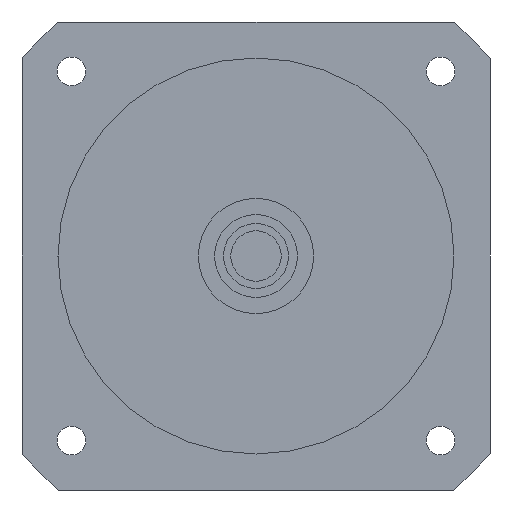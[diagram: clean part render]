
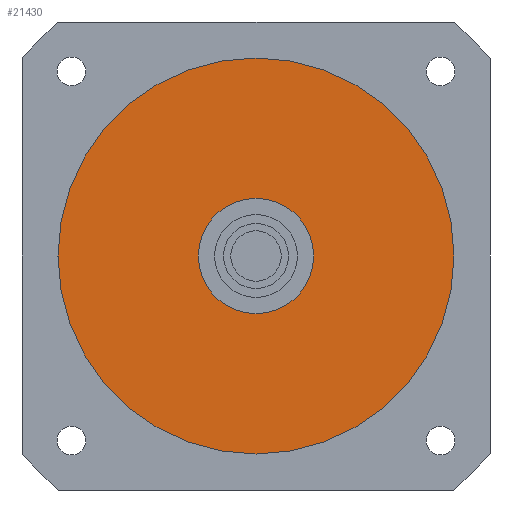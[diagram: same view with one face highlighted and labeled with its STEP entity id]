
A CAD part, left-side view. The second image highlights one B-rep face of the part: STEP entity #21430.
In plain terms, the highlighted planar face has unit normal (-1, 0, 0) as drawn and (0, 0, -1) by its records, which use the part's own axes.
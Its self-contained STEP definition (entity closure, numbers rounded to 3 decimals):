
#20850=CARTESIAN_POINT('',(55.,0.,-54.));
#20860=VERTEX_POINT('',#20850);
#20950=CARTESIAN_POINT('',(-55.,0.,-54.));
#20960=VERTEX_POINT('',#20950);
#20990=CARTESIAN_POINT('',(0.,0.,
-54.));
#21000=DIRECTION('',(0.,0.,1.));
#21010=DIRECTION('',(0.,1.,0.));
#21020=AXIS2_PLACEMENT_3D('',#20990,#21000,#21010);
#21030=CIRCLE('',#21020,55.);
#21040=CARTESIAN_POINT('',(0.,55.,-54.));
#21050=VERTEX_POINT('',#21040);
#21060=EDGE_CURVE('',#21050,#20960,#21030,.T.);
#21080=EDGE_CURVE('',#20860,#21050,#21030,.T.);
#21130=CARTESIAN_POINT('',(0.,0.,
-54.));
#21140=DIRECTION('',(0.,0.,1.));
#21150=DIRECTION('',(-1.,0.,0.));
#21160=AXIS2_PLACEMENT_3D('',#21130,#21140,#21150);
#21170=PLANE('',#21160);
#21180=ORIENTED_EDGE('',*,*,#21060,.F.);
#21190=EDGE_CURVE('',#20960,#20860,#21030,.T.);
#21200=ORIENTED_EDGE('',*,*,#21190,.F.);
#21210=ORIENTED_EDGE('',*,*,#21080,.F.);
#21220=EDGE_LOOP('',(#21210,#21200,#21180));
#21230=FACE_OUTER_BOUND('',#21220,.T.);
#21240=CARTESIAN_POINT('',(0.,0.,
-54.));
#21250=DIRECTION('',(0.,0.,1.));
#21260=DIRECTION('',(0.,1.,0.));
#21270=AXIS2_PLACEMENT_3D('',#21240,#21250,#21260);
#21280=CIRCLE('',#21270,16.);
#21290=CARTESIAN_POINT('',(-16.,0.,-54.));
#21300=VERTEX_POINT('',#21290);
#21310=CARTESIAN_POINT('',(16.,0.,-54.));
#21320=VERTEX_POINT('',#21310);
#21330=EDGE_CURVE('',#21300,#21320,#21280,.T.);
#21340=ORIENTED_EDGE('',*,*,#21330,.T.);
#21350=CARTESIAN_POINT('',(0.,16.,-54.));
#21360=VERTEX_POINT('',#21350);
#21370=EDGE_CURVE('',#21360,#21300,#21280,.T.);
#21380=ORIENTED_EDGE('',*,*,#21370,.T.);
#21390=EDGE_CURVE('',#21320,#21360,#21280,.T.);
#21400=ORIENTED_EDGE('',*,*,#21390,.T.);
#21410=EDGE_LOOP('',(#21400,#21380,#21340));
#21420=FACE_BOUND('',#21410,.T.);
#21430=ADVANCED_FACE('',(#21230,#21420),#21170,.F.);
